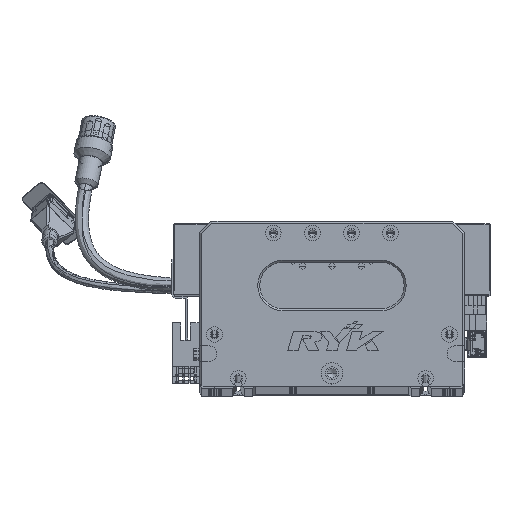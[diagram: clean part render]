
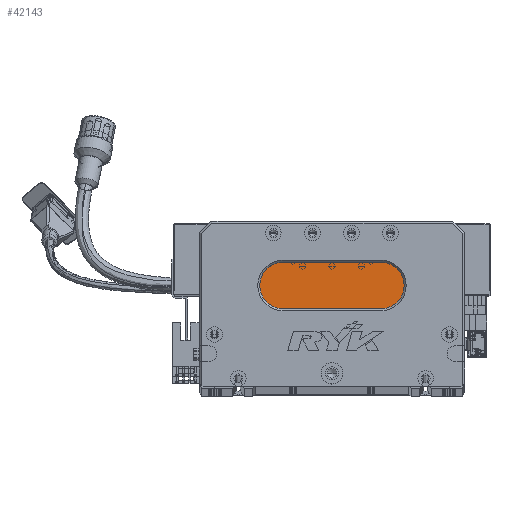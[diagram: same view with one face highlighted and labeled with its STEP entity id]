
A CAD part, top view. The second image highlights one B-rep face of the part: STEP entity #42143.
In plain terms, the highlighted planar face has unit normal (0, 0, 1) as drawn and (0, 0, -1) by its records, which use the part's own axes.
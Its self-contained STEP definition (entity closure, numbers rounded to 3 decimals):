
#1829 = VECTOR ( 'NONE', #111585, 1000. ) ;
#6237 = VERTEX_POINT ( 'NONE', #104271 ) ;
#7734 = DIRECTION ( 'NONE',  ( -1., 0., 0. ) ) ;
#8904 = AXIS2_PLACEMENT_3D ( 'NONE', #118421, #48690, #10056 ) ;
#10056 = DIRECTION ( 'NONE',  ( -1., 0., 0. ) ) ;
#10578 = CARTESIAN_POINT ( 'NONE',  ( 93., 40., 13. ) ) ;
#10599 = CARTESIAN_POINT ( 'NONE',  ( 31., 52., 13. ) ) ;
#16091 = VERTEX_POINT ( 'NONE', #115508 ) ;
#17204 = DIRECTION ( 'NONE',  ( -1., 0., 0. ) ) ;
#17681 = DIRECTION ( 'NONE',  ( 0., 0., -1. ) ) ;
#18129 = CARTESIAN_POINT ( 'NONE',  ( 43., 52., 13. ) ) ;
#21246 = VERTEX_POINT ( 'NONE', #126682 ) ;
#24334 = VECTOR ( 'NONE', #44279, 1000. ) ;
#25902 = CARTESIAN_POINT ( 'NONE',  ( 93., 52., 13. ) ) ;
#29147 = CIRCLE ( 'NONE', #35467, 12. ) ;
#32682 = CIRCLE ( 'NONE', #53514, 12. ) ;
#32934 = EDGE_CURVE ( 'NONE', #6237, #16091, #109694, .T. ) ;
#35467 = AXIS2_PLACEMENT_3D ( 'NONE', #36793, #17681, #87103 ) ;
#36793 = CARTESIAN_POINT ( 'NONE',  ( 43., 52., 13. ) ) ;
#38959 = DIRECTION ( 'NONE',  ( 0., 0., -1. ) ) ;
#40341 = ORIENTED_EDGE ( 'NONE', *, *, #32934, .T. ) ;
#42143 = ADVANCED_FACE ( 'NONE', ( #70170 ), #48269, .T. ) ;
#42812 = EDGE_LOOP ( 'NONE', ( #48086, #52575, #121809, #119079, #40341 ) ) ;
#44279 = DIRECTION ( 'NONE',  ( 1., 0., 0. ) ) ;
#48086 = ORIENTED_EDGE ( 'NONE', *, *, #96306, .T. ) ;
#48269 = PLANE ( 'NONE',  #8904 ) ;
#48690 = DIRECTION ( 'NONE',  ( 0., 0., -1. ) ) ;
#52575 = ORIENTED_EDGE ( 'NONE', *, *, #55094, .T. ) ;
#53514 = AXIS2_PLACEMENT_3D ( 'NONE', #18129, #38959, #7734 ) ;
#53832 = CARTESIAN_POINT ( 'NONE',  ( 93., 64., 13. ) ) ;
#54719 = CIRCLE ( 'NONE', #118166, 12. ) ;
#55094 = EDGE_CURVE ( 'NONE', #21246, #99170, #105711, .T. ) ;
#70170 = FACE_OUTER_BOUND ( 'NONE', #42812, .T. ) ;
#87103 = DIRECTION ( 'NONE',  ( -1., 0., 0. ) ) ;
#96306 = EDGE_CURVE ( 'NONE', #16091, #21246, #54719, .T. ) ;
#99170 = VERTEX_POINT ( 'NONE', #126453 ) ;
#104271 = CARTESIAN_POINT ( 'NONE',  ( 43., 64., 13. ) ) ;
#105711 = LINE ( 'NONE', #10578, #1829 ) ;
#109694 = LINE ( 'NONE', #53832, #24334 ) ;
#111585 = DIRECTION ( 'NONE',  ( -1., 0., 0. ) ) ;
#114229 = VERTEX_POINT ( 'NONE', #10599 ) ;
#115508 = CARTESIAN_POINT ( 'NONE',  ( 93., 64., 13. ) ) ;
#118166 = AXIS2_PLACEMENT_3D ( 'NONE', #25902, #126395, #17204 ) ;
#118421 = CARTESIAN_POINT ( 'NONE',  ( 93., 52., 13. ) ) ;
#119079 = ORIENTED_EDGE ( 'NONE', *, *, #126528, .T. ) ;
#121809 = ORIENTED_EDGE ( 'NONE', *, *, #124386, .T. ) ;
#124386 = EDGE_CURVE ( 'NONE', #99170, #114229, #32682, .T. ) ;
#126395 = DIRECTION ( 'NONE',  ( 0., 0., -1. ) ) ;
#126453 = CARTESIAN_POINT ( 'NONE',  ( 43., 40., 13. ) ) ;
#126528 = EDGE_CURVE ( 'NONE', #114229, #6237, #29147, .T. ) ;
#126682 = CARTESIAN_POINT ( 'NONE',  ( 93., 40., 13. ) ) ;
